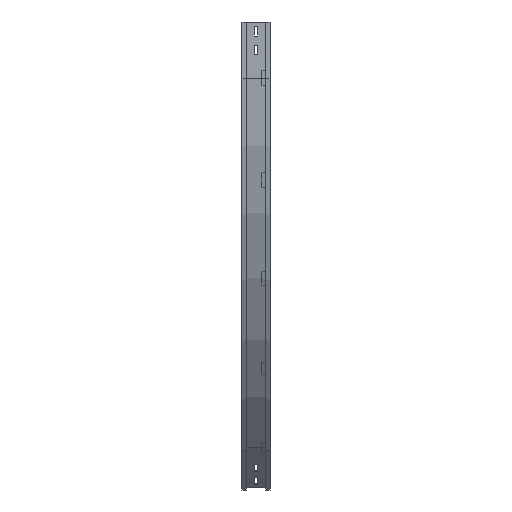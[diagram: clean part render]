
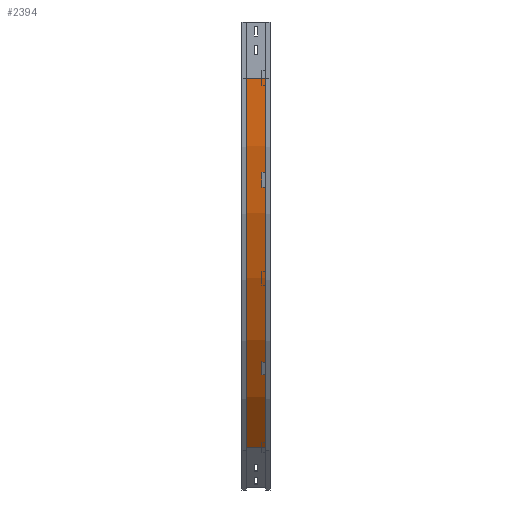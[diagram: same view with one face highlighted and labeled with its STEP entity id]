
A CAD part, left-side view. The second image highlights one B-rep face of the part: STEP entity #2394.
In plain terms, the highlighted cylindrical face has radius 1400 mm (diameter 2800 mm), a partial arc.
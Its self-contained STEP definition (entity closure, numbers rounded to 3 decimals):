
#118 = DIRECTION ( 'NONE',  ( 0., 0., -1. ) ) ;
#132 = EDGE_LOOP ( 'NONE', ( #3137, #658, #1319, #1019 ) ) ;
#154 = CARTESIAN_POINT ( 'NONE',  ( 419.051, 12., -1139.949 ) ) ;
#286 = CARTESIAN_POINT ( 'NONE',  ( 419.051, 63., -1139.949 ) ) ;
#366 = DIRECTION ( 'NONE',  ( -1., 0., 0. ) ) ;
#404 = VERTEX_POINT ( 'NONE', #2115 ) ;
#461 = LINE ( 'NONE', #3308, #2957 ) ;
#658 = ORIENTED_EDGE ( 'NONE', *, *, #2823, .F. ) ;
#744 = EDGE_CURVE ( 'NONE', #3112, #1237, #2702, .T. ) ;
#777 = AXIS2_PLACEMENT_3D ( 'NONE', #2401, #1886, #3192 ) ;
#884 = CARTESIAN_POINT ( 'NONE',  ( 1409., 0., -150. ) ) ;
#985 = AXIS2_PLACEMENT_3D ( 'NONE', #884, #3023, #118 ) ;
#1001 = DIRECTION ( 'NONE',  ( 0., -1., 0. ) ) ;
#1019 = ORIENTED_EDGE ( 'NONE', *, *, #2125, .T. ) ;
#1225 = CYLINDRICAL_SURFACE ( 'NONE', #985, 1400. ) ;
#1237 = VERTEX_POINT ( 'NONE', #286 ) ;
#1298 = EDGE_CURVE ( 'NONE', #404, #1314, #1737, .T. ) ;
#1314 = VERTEX_POINT ( 'NONE', #154 ) ;
#1319 = ORIENTED_EDGE ( 'NONE', *, *, #744, .T. ) ;
#1583 = CARTESIAN_POINT ( 'NONE',  ( 9., 63., -150. ) ) ;
#1737 = CIRCLE ( 'NONE', #2342, 1400. ) ;
#1886 = DIRECTION ( 'NONE',  ( 0., -1., 0. ) ) ;
#1974 = CARTESIAN_POINT ( 'NONE',  ( 1409., 12., -150. ) ) ;
#2115 = CARTESIAN_POINT ( 'NONE',  ( 9., 12., -150. ) ) ;
#2125 = EDGE_CURVE ( 'NONE', #1237, #1314, #461, .T. ) ;
#2143 = DIRECTION ( 'NONE',  ( 0., -1., 0. ) ) ;
#2256 = VECTOR ( 'NONE', #2143, 1000. ) ;
#2270 = DIRECTION ( 'NONE',  ( 0., -1., 0. ) ) ;
#2342 = AXIS2_PLACEMENT_3D ( 'NONE', #1974, #2270, #366 ) ;
#2394 = ADVANCED_FACE ( 'NONE', ( #3387 ), #1225, .T. ) ;
#2401 = CARTESIAN_POINT ( 'NONE',  ( 1409., 63., -150. ) ) ;
#2702 = CIRCLE ( 'NONE', #777, 1400. ) ;
#2823 = EDGE_CURVE ( 'NONE', #3112, #404, #2951, .T. ) ;
#2951 = LINE ( 'NONE', #3195, #2256 ) ;
#2957 = VECTOR ( 'NONE', #1001, 1000. ) ;
#3023 = DIRECTION ( 'NONE',  ( 0., -1., 0. ) ) ;
#3112 = VERTEX_POINT ( 'NONE', #1583 ) ;
#3137 = ORIENTED_EDGE ( 'NONE', *, *, #1298, .F. ) ;
#3192 = DIRECTION ( 'NONE',  ( -1., 0., 0. ) ) ;
#3195 = CARTESIAN_POINT ( 'NONE',  ( 9., 12., -150. ) ) ;
#3308 = CARTESIAN_POINT ( 'NONE',  ( 419.051, 12., -1139.949 ) ) ;
#3387 = FACE_OUTER_BOUND ( 'NONE', #132, .T. ) ;
